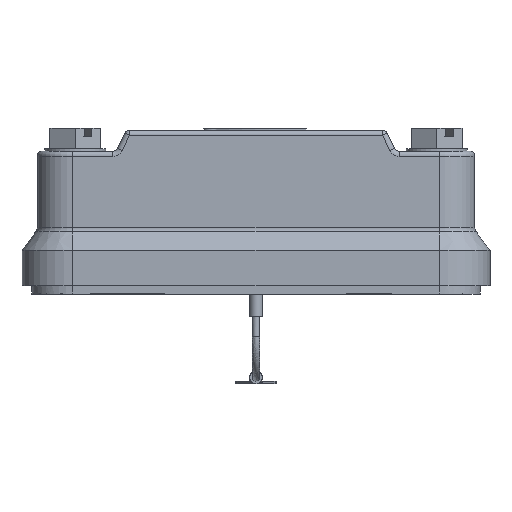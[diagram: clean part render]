
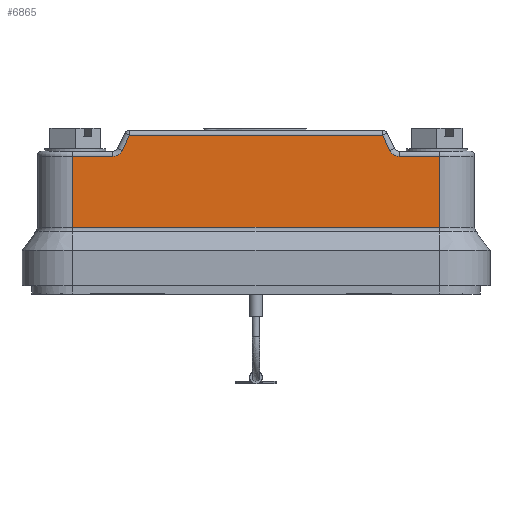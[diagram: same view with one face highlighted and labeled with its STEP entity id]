
A CAD part, front view. The second image highlights one B-rep face of the part: STEP entity #6865.
In plain terms, the highlighted planar face has unit normal (0, -1, 0).
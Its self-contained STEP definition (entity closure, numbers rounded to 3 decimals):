
#3850=PLANE('',#14624);
#4191=FACE_OUTER_BOUND('',#7752,.T.);
#5058=LINE('',#19443,#6115);
#5059=LINE('',#19447,#6116);
#5060=LINE('',#19449,#6117);
#5061=LINE('',#19451,#6118);
#5062=LINE('',#19455,#6119);
#5063=LINE('',#19457,#6120);
#5064=LINE('',#19459,#6121);
#5065=LINE('',#19463,#6122);
#6115=VECTOR('',#16009,1.);
#6116=VECTOR('',#16014,1.);
#6117=VECTOR('',#16015,1.);
#6118=VECTOR('',#16016,1.);
#6119=VECTOR('',#16019,1.);
#6120=VECTOR('',#16020,1.);
#6121=VECTOR('',#16021,1.);
#6122=VECTOR('',#16024,1.);
#6865=ADVANCED_FACE('',(#4191),#3850,.F.);
#7752=EDGE_LOOP('',(#8851,#8852,#8853,#8854,#8855,#8856,#8857,#8858,#8859,
#8860));
#8851=ORIENTED_EDGE('',*,*,#12561,.T.);
#8852=ORIENTED_EDGE('',*,*,#12563,.T.);
#8853=ORIENTED_EDGE('',*,*,#12564,.F.);
#8854=ORIENTED_EDGE('',*,*,#12565,.T.);
#8855=ORIENTED_EDGE('',*,*,#12566,.T.);
#8856=ORIENTED_EDGE('',*,*,#12567,.T.);
#8857=ORIENTED_EDGE('',*,*,#12568,.T.);
#8858=ORIENTED_EDGE('',*,*,#12569,.T.);
#8859=ORIENTED_EDGE('',*,*,#12570,.T.);
#8860=ORIENTED_EDGE('',*,*,#12571,.T.);
#11615=VERTEX_POINT('',#19442);
#11616=VERTEX_POINT('',#19444);
#11617=VERTEX_POINT('',#19448);
#11618=VERTEX_POINT('',#19450);
#11619=VERTEX_POINT('',#19452);
#11620=VERTEX_POINT('',#19454);
#11621=VERTEX_POINT('',#19456);
#11622=VERTEX_POINT('',#19458);
#11623=VERTEX_POINT('',#19460);
#11624=VERTEX_POINT('',#19462);
#12561=EDGE_CURVE('',#11616,#11615,#5058,.T.);
#12563=EDGE_CURVE('',#11615,#11617,#5059,.T.);
#12564=EDGE_CURVE('',#11618,#11617,#5060,.T.);
#12565=EDGE_CURVE('',#11618,#11619,#5061,.T.);
#12566=EDGE_CURVE('',#11619,#11620,#13621,.T.);
#12567=EDGE_CURVE('',#11620,#11621,#5062,.T.);
#12568=EDGE_CURVE('',#11621,#11622,#5063,.T.);
#12569=EDGE_CURVE('',#11622,#11623,#5064,.T.);
#12570=EDGE_CURVE('',#11623,#11624,#13622,.T.);
#12571=EDGE_CURVE('',#11624,#11616,#5065,.T.);
#13621=CIRCLE('',#14622,2.);
#13622=CIRCLE('',#14623,2.);
#14622=AXIS2_PLACEMENT_3D('',#19453,#16017,#16018);
#14623=AXIS2_PLACEMENT_3D('',#19461,#16022,#16023);
#14624=AXIS2_PLACEMENT_3D('',#19464,#16025,#16026);
#16009=DIRECTION('',(0.,0.,-1.));
#16014=DIRECTION('',(1.,0.,0.));
#16015=DIRECTION('',(0.,0.,-1.));
#16016=DIRECTION('',(-1.,0.,0.));
#16017=DIRECTION('',(0.,1.,0.));
#16018=DIRECTION('',(0.,0.,1.));
#16019=DIRECTION('',(-0.438,0.,0.899));
#16020=DIRECTION('',(-1.,0.,0.));
#16021=DIRECTION('',(-0.438,0.,-0.899));
#16022=DIRECTION('',(0.,1.,0.));
#16023=DIRECTION('',(0.,0.,1.));
#16024=DIRECTION('',(-1.,0.,0.));
#16025=DIRECTION('',(0.,1.,0.));
#16026=DIRECTION('',(0.,0.,1.));
#19442=CARTESIAN_POINT('',(-36.,-25.5,11.5));
#19443=CARTESIAN_POINT('',(-36.,-25.5,30.6));
#19444=CARTESIAN_POINT('',(-36.,-25.5,25.5));
#19447=CARTESIAN_POINT('',(36.,-25.5,11.5));
#19448=CARTESIAN_POINT('',(36.,-25.5,11.5));
#19449=CARTESIAN_POINT('',(36.,-25.5,30.6));
#19450=CARTESIAN_POINT('',(36.,-25.5,25.5));
#19451=CARTESIAN_POINT('',(28.125,-25.5,25.5));
#19452=CARTESIAN_POINT('',(28.125,-25.5,25.5));
#19453=CARTESIAN_POINT('',(28.125,-25.5,27.5));
#19454=CARTESIAN_POINT('',(26.327,-25.5,26.623));
#19455=CARTESIAN_POINT('',(24.875,-25.5,29.6));
#19456=CARTESIAN_POINT('',(24.875,-25.5,29.6));
#19457=CARTESIAN_POINT('',(-24.875,-25.5,29.6));
#19458=CARTESIAN_POINT('',(-24.875,-25.5,29.6));
#19459=CARTESIAN_POINT('',(-26.327,-25.5,26.623));
#19460=CARTESIAN_POINT('',(-26.327,-25.5,26.623));
#19461=CARTESIAN_POINT('',(-28.125,-25.5,27.5));
#19462=CARTESIAN_POINT('',(-28.125,-25.5,25.5));
#19463=CARTESIAN_POINT('',(-36.,-25.5,25.5));
#19464=CARTESIAN_POINT('',(-36.,-25.5,30.6));
